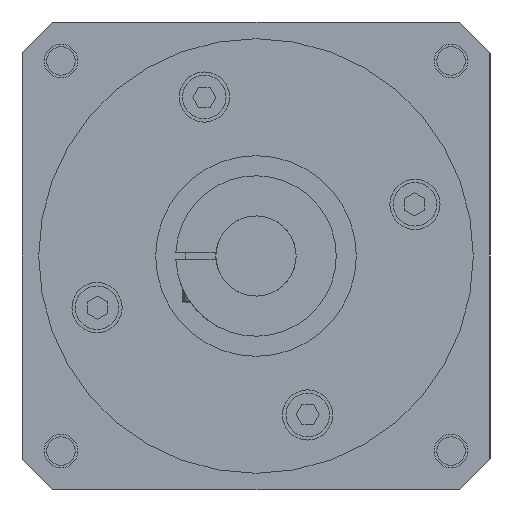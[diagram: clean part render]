
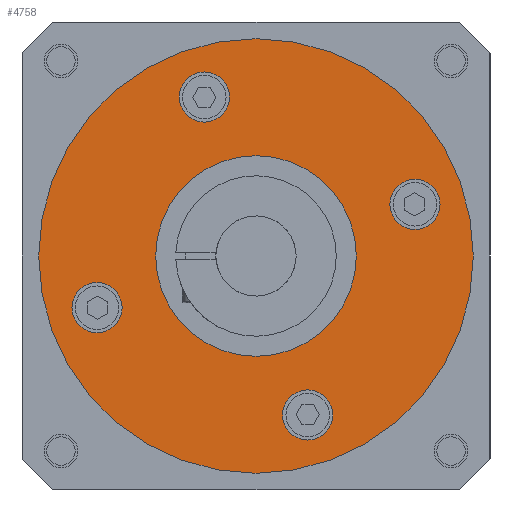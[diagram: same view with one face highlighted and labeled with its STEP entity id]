
A CAD part, left-side view. The second image highlights one B-rep face of the part: STEP entity #4758.
In plain terms, the highlighted planar face has unit normal (-1, 0, 0).
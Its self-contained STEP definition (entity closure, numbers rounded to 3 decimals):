
#1027=CARTESIAN_POINT('',(10.4,0.,0.));
#1028=DIRECTION('',(-1.,0.,0.));
#1029=DIRECTION('',(0.,-1.,0.));
#1030=AXIS2_PLACEMENT_3D('',#1027,#1028,#1029);
#1032=CARTESIAN_POINT('',(10.4,0.,0.));
#1033=DIRECTION('',(1.,0.,0.));
#1034=DIRECTION('',(0.,-1.,0.));
#1035=AXIS2_PLACEMENT_3D('',#1032,#1033,#1034);
#1037=CARTESIAN_POINT('',(10.4,-47.553,15.451));
#1038=DIRECTION('',(-1.,0.,0.));
#1039=DIRECTION('',(0.,0.,-1.));
#1040=AXIS2_PLACEMENT_3D('',#1037,#1038,#1039);
#1042=CARTESIAN_POINT('',(10.4,-47.553,15.451));
#1043=DIRECTION('',(-1.,0.,0.));
#1044=DIRECTION('',(0.,0.,1.));
#1045=AXIS2_PLACEMENT_3D('',#1042,#1043,#1044);
#1047=CARTESIAN_POINT('',(10.4,-15.451,-47.553));
#1048=DIRECTION('',(-1.,0.,0.));
#1049=DIRECTION('',(0.,0.,-1.));
#1050=AXIS2_PLACEMENT_3D('',#1047,#1048,#1049);
#1052=CARTESIAN_POINT('',(10.4,-15.451,-47.553));
#1053=DIRECTION('',(-1.,0.,0.));
#1054=DIRECTION('',(0.,0.,1.));
#1055=AXIS2_PLACEMENT_3D('',#1052,#1053,#1054);
#1057=CARTESIAN_POINT('',(10.4,47.553,-15.451));
#1058=DIRECTION('',(-1.,0.,0.));
#1059=DIRECTION('',(0.,0.,-1.));
#1060=AXIS2_PLACEMENT_3D('',#1057,#1058,#1059);
#1062=CARTESIAN_POINT('',(10.4,47.553,-15.451));
#1063=DIRECTION('',(-1.,0.,0.));
#1064=DIRECTION('',(0.,0.,1.));
#1065=AXIS2_PLACEMENT_3D('',#1062,#1063,#1064);
#1067=CARTESIAN_POINT('',(10.4,15.451,47.553));
#1068=DIRECTION('',(-1.,0.,0.));
#1069=DIRECTION('',(0.,0.,-1.));
#1070=AXIS2_PLACEMENT_3D('',#1067,#1068,#1069);
#1072=CARTESIAN_POINT('',(10.4,15.451,47.553));
#1073=DIRECTION('',(-1.,0.,0.));
#1074=DIRECTION('',(0.,0.,1.));
#1075=AXIS2_PLACEMENT_3D('',#1072,#1073,#1074);
#1077=CARTESIAN_POINT('',(10.4,0.,0.));
#1078=DIRECTION('',(1.,0.,0.));
#1079=DIRECTION('',(0.,-1.,0.));
#1080=AXIS2_PLACEMENT_3D('',#1077,#1078,#1079);
#1090=CARTESIAN_POINT('',(10.4,0.,0.));
#1091=DIRECTION('',(-1.,0.,0.));
#1092=DIRECTION('',(0.,-1.,0.));
#1093=AXIS2_PLACEMENT_3D('',#1090,#1091,#1092);
#3075=CARTESIAN_POINT('',(10.4,-15.451,-40.053));
#3076=VERTEX_POINT('',#3075);
#3077=CARTESIAN_POINT('',(10.4,15.451,40.053));
#3078=VERTEX_POINT('',#3077);
#3248=CARTESIAN_POINT('',(10.4,-65.,0.));
#3250=VERTEX_POINT('',#3248);
#3251=CARTESIAN_POINT('',(10.4,-30.,0.));
#3253=VERTEX_POINT('',#3251);
#3256=CARTESIAN_POINT('',(10.4,65.,0.));
#3258=VERTEX_POINT('',#3256);
#3259=CARTESIAN_POINT('',(10.4,30.,0.));
#3261=VERTEX_POINT('',#3259);
#3291=CARTESIAN_POINT('',(10.4,-47.553,7.951));
#3292=CARTESIAN_POINT('',(10.4,-47.553,22.951));
#3293=VERTEX_POINT('',#3291);
#3294=VERTEX_POINT('',#3292);
#3295=CARTESIAN_POINT('',(10.4,-15.451,-55.053));
#3296=VERTEX_POINT('',#3295);
#3297=CARTESIAN_POINT('',(10.4,47.553,-22.951));
#3298=CARTESIAN_POINT('',(10.4,47.553,-7.951));
#3299=VERTEX_POINT('',#3297);
#3300=VERTEX_POINT('',#3298);
#3301=CARTESIAN_POINT('',(10.4,15.451,55.053));
#3302=VERTEX_POINT('',#3301);
#4719=CARTESIAN_POINT('',(10.4,0.,0.));
#4720=DIRECTION('',(1.,0.,0.));
#4721=DIRECTION('',(0.,1.,0.));
#4722=AXIS2_PLACEMENT_3D('',#4719,#4720,#4721);
#4723=PLANE('',#4722);
#4724=ORIENTED_EDGE('',*,*,#4712,.F.);
#4725=ORIENTED_EDGE('',*,*,#4701,.T.);
#4726=EDGE_LOOP('',(#4724,#4725));
#4727=FACE_OUTER_BOUND('',#4726,.F.);
#4729=ORIENTED_EDGE('',*,*,#4728,.F.);
#4731=ORIENTED_EDGE('',*,*,#4730,.T.);
#4732=EDGE_LOOP('',(#4729,#4731));
#4733=FACE_BOUND('',#4732,.F.);
#4735=ORIENTED_EDGE('',*,*,#4734,.T.);
#4737=ORIENTED_EDGE('',*,*,#4736,.T.);
#4738=EDGE_LOOP('',(#4735,#4737));
#4739=FACE_BOUND('',#4738,.F.);
#4741=ORIENTED_EDGE('',*,*,#4740,.T.);
#4743=ORIENTED_EDGE('',*,*,#4742,.T.);
#4744=EDGE_LOOP('',(#4741,#4743));
#4745=FACE_BOUND('',#4744,.F.);
#4747=ORIENTED_EDGE('',*,*,#4746,.T.);
#4749=ORIENTED_EDGE('',*,*,#4748,.T.);
#4750=EDGE_LOOP('',(#4747,#4749));
#4751=FACE_BOUND('',#4750,.F.);
#4753=ORIENTED_EDGE('',*,*,#4752,.T.);
#4755=ORIENTED_EDGE('',*,*,#4754,.T.);
#4756=EDGE_LOOP('',(#4753,#4755));
#4757=FACE_BOUND('',#4756,.F.);
#1031=CIRCLE('',#1030,65.);
#1036=CIRCLE('',#1035,65.);
#1041=CIRCLE('',#1040,7.5);
#1046=CIRCLE('',#1045,7.5);
#1051=CIRCLE('',#1050,7.5);
#1056=CIRCLE('',#1055,7.5);
#1061=CIRCLE('',#1060,7.5);
#1066=CIRCLE('',#1065,7.5);
#1071=CIRCLE('',#1070,7.5);
#1076=CIRCLE('',#1075,7.5);
#1081=CIRCLE('',#1080,30.);
#1094=CIRCLE('',#1093,30.);
#4701=EDGE_CURVE('',#3250,#3258,#1036,.T.);
#4712=EDGE_CURVE('',#3250,#3258,#1031,.T.);
#4728=EDGE_CURVE('',#3253,#3261,#1081,.T.);
#4730=EDGE_CURVE('',#3253,#3261,#1094,.T.);
#4734=EDGE_CURVE('',#3293,#3294,#1041,.T.);
#4736=EDGE_CURVE('',#3294,#3293,#1046,.T.);
#4740=EDGE_CURVE('',#3296,#3076,#1051,.T.);
#4742=EDGE_CURVE('',#3076,#3296,#1056,.T.);
#4746=EDGE_CURVE('',#3299,#3300,#1061,.T.);
#4748=EDGE_CURVE('',#3300,#3299,#1066,.T.);
#4752=EDGE_CURVE('',#3078,#3302,#1071,.T.);
#4754=EDGE_CURVE('',#3302,#3078,#1076,.T.);
#4758=ADVANCED_FACE('',(#4727,#4733,#4739,#4745,#4751,#4757),#4723,.F.);
